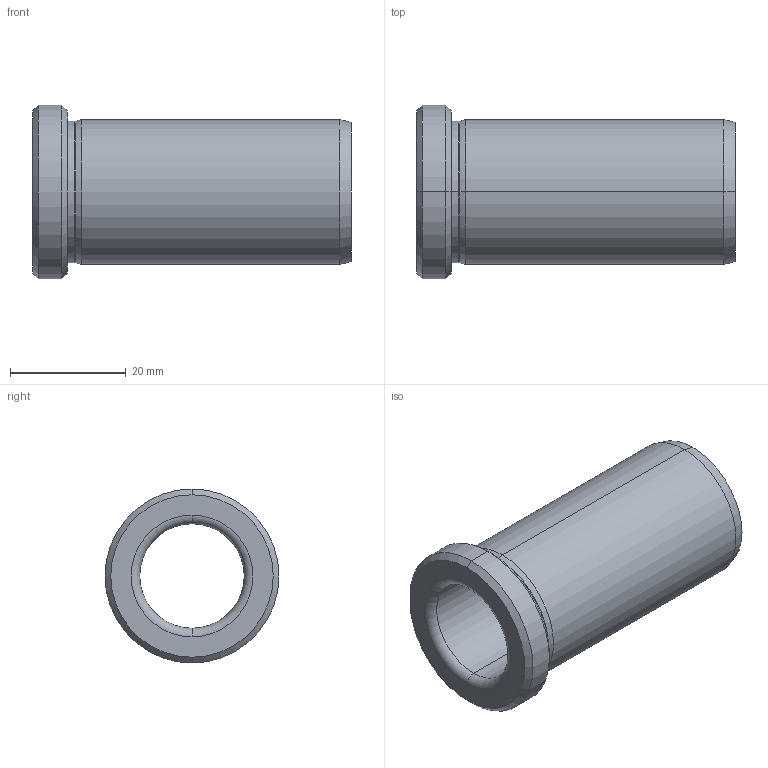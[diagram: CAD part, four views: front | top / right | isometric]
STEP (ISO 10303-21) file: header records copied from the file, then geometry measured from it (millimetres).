
FILE_DESCRIPTION (( 'STEP AP214' ), '1' );
FILE_NAME ('BRCVBG-18x55.STEP', '2020-07-21T12:11:35', ( '' ), ( '' ), 'SwSTEP 2.0', 'SolidWorks 2018', '' );
FILE_SCHEMA (( 'AUTOMOTIVE_DESIGN' ));
Length unit declared in the file: millimetre
Products named in the file (1): BRCVBG-18x55
Bounding box: 55 x 30 x 30 mm (x, y, z)
Volume: 14091 mm3; surface area: 8263.9 mm2
Topology: 1 solids, 1 shells, 23 faces, 46 edges, 26 vertices
Faces by surface type: cone 8, cylinder 8, torus 4, plane 3
Entity records: 636 total; most frequent: DIRECTION 124, CARTESIAN_POINT 96, ORIENTED_EDGE 92, AXIS2_PLACEMENT_3D 54, EDGE_CURVE 46, CIRCLE 30, VERTEX_POINT 26, EDGE_LOOP 26
